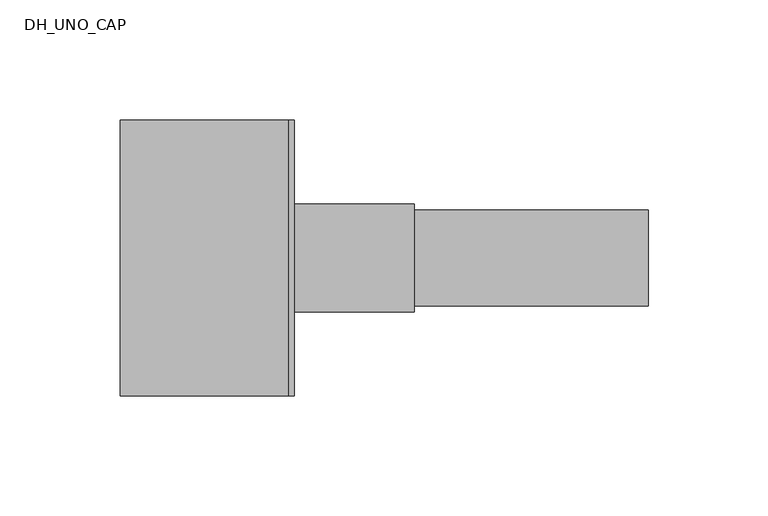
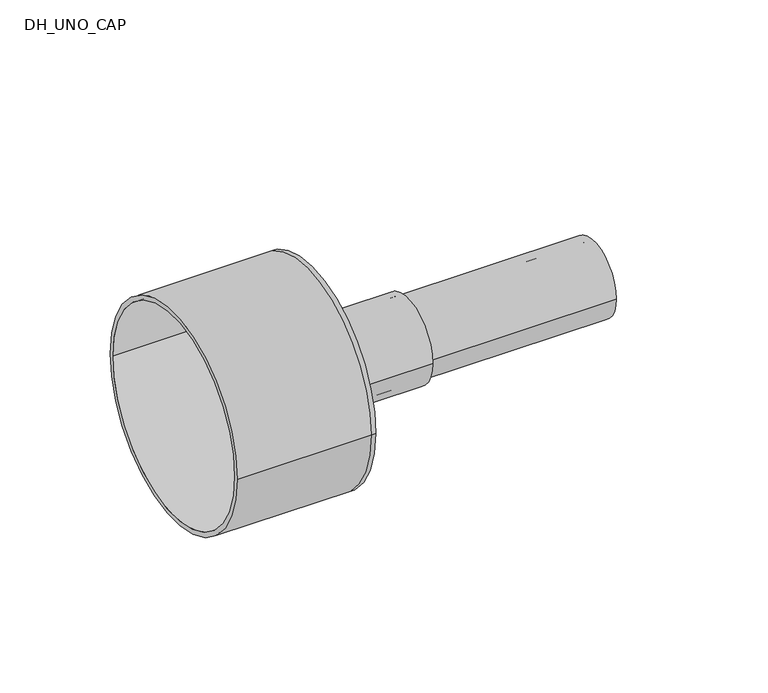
"""IFC4 building model written with IfcOpenShell, lengths in millimetres: pipe fitting geometry, DH_UNO_CAP : INSULPEX UNO + 11 Heating - Rubber Cap."""

from ifc_helpers import new_model, si_unit, point, frame, origin, origin_2d, place, context, project, spatial, polyline, circle_curve, trimmed, segment, composite_curve, outline, extrude, source, transform, mapped, element, save
from ifc_brep_helpers import plane_surface, cylinder_surface, revolved_surface, advanced_brep


def dh_uno_cap_8feabba9(model_context):
    return source(origin(), model_context, "Body", "SolidModel", [
        extrude(outline(composite_curve([segment(trimmed(circle_curve(origin_2d(), 20.0), [point((-20.0, 0.0))], [point((20.0, 0.0))], False, "CARTESIAN"), True, "CONTINUOUS"), segment(trimmed(circle_curve(origin_2d(), 20.0), [point((20.0, 0.0))], [point((-20.0, 0.0))], False, "CARTESIAN"), True, "CONTINUOUS")], self_intersect=False), holes=[composite_curve([segment(trimmed(circle_curve(origin_2d(), 16.3), [point((-16.3, 0.0))], [point((16.3, 0.0))], True, "CARTESIAN"), True, "CONTINUOUS"), segment(trimmed(circle_curve(origin_2d(), 16.3), [point((16.3, 0.0))], [point((-16.3, 0.0))], True, "CARTESIAN"), True, "CONTINUOUS")], self_intersect=False)]), frame((0.0, 0.0, 0.0), z_axis=(1.0, 0.0, 0.0), x_axis=(0.0, 1.0, 0.0)), (0.0, 0.0, 1.0), 150.0),
        advanced_brep(
        [(-70.0, -57.5, 0.0), (-70.0, 57.5, 0.0), (-70.0, -55.0, 0.0), (-70.0, 55.0, 0.0), (0.0, -55.0, 0.0), (0.0, 55.0, 0.0), (0.0, -57.5, 0.0), (0.0, 57.5, 0.0), (0.0, 20.0, 0.0), (0.0, -20.0, 0.0), (2.5, -57.5, 0.0), (2.5, 57.5, 0.0), (2.5, -20.0, 0.0), (2.5, 20.0, 0.0)],
        [
            (0, 1, circle_curve(frame((-70.0, 0.0, 0.0), z_axis=(-1.0, 0.0, 0.0), x_axis=(0.0, 1.0, 0.0)), 57.5)),
            (1, 0, circle_curve(frame((-70.0, 0.0, 0.0), z_axis=(-1.0, 0.0, 0.0), x_axis=(0.0, 1.0, 0.0)), 57.5)),
            (2, 3, circle_curve(frame((-70.0, 0.0, 0.0), z_axis=(1.0, 0.0, 0.0), x_axis=(0.0, 1.0, 0.0)), 55.0)),
            (3, 2, circle_curve(frame((-70.0, 0.0, 0.0), z_axis=(1.0, 0.0, 0.0), x_axis=(0.0, 1.0, 0.0)), 55.0)),
            (2, 4),
            (4, 5, circle_curve(frame((0.0, 0.0, 0.0), z_axis=(1.0, 0.0, 0.0), x_axis=(0.0, 1.0, 0.0)), 55.0)),
            (5, 3),
            (5, 4, circle_curve(frame((0.0, 0.0, 0.0), z_axis=(1.0, 0.0, 0.0), x_axis=(0.0, 1.0, 0.0)), 55.0)),
            (0, 6),
            (6, 7, circle_curve(frame((0.0, 0.0, 0.0), z_axis=(-1.0, 0.0, 0.0), x_axis=(0.0, 1.0, 0.0)), 57.5)),
            (7, 1),
            (7, 6, circle_curve(frame((0.0, 0.0, 0.0), z_axis=(-1.0, 0.0, 0.0), x_axis=(0.0, 1.0, 0.0)), 57.5)),
            (8, 9, circle_curve(frame((0.0, 0.0, 0.0), z_axis=(1.0, 0.0, 0.0), x_axis=(0.0, 1.0, 0.0)), 20.0)),
            (9, 8, circle_curve(frame((0.0, 0.0, 0.0), z_axis=(1.0, 0.0, 0.0), x_axis=(0.0, 1.0, 0.0)), 20.0)),
            (10, 11, circle_curve(frame((2.5, 0.0, 0.0), z_axis=(1.0, 0.0, 0.0), x_axis=(0.0, 1.0, 0.0)), 57.5)),
            (11, 10, circle_curve(frame((2.5, 0.0, 0.0), z_axis=(1.0, 0.0, 0.0), x_axis=(0.0, 1.0, 0.0)), 57.5)),
            (12, 13, circle_curve(frame((2.5, 0.0, 0.0), z_axis=(-1.0, 0.0, 0.0), x_axis=(0.0, 1.0, 0.0)), 20.0)),
            (13, 12, circle_curve(frame((2.5, 0.0, 0.0), z_axis=(-1.0, 0.0, 0.0), x_axis=(0.0, 1.0, 0.0)), 20.0)),
            (11, 7),
            (6, 10),
            (8, 13),
            (12, 9),
        ],
        [
            plane_surface(frame((-70.0, 0.0, 0.0), z_axis=(-1.0, 0.0, 0.0), x_axis=(0.0, 0.0, 1.0))),
            revolved_surface(polyline([(0.0, 55.0, 0.0), (-70.0, 55.0, 0.0)]), (-70.0, 0.0, 0.0), (1.0, 0.0, 0.0)),
            cylinder_surface(frame((-70.0, 0.0, 0.0), z_axis=(-1.0, 0.0, 0.0), x_axis=(0.0, 1.0, 0.0)), 57.5),
            plane_surface(frame((0.0, 0.0, 0.0), z_axis=(-1.0, 0.0, 0.0), x_axis=(0.0, 0.0, 1.0))),
            plane_surface(frame((2.5, 0.0, 0.0), z_axis=(1.0, 0.0, 0.0), x_axis=(0.0, 0.0, 1.0))),
            cylinder_surface(frame((0.0, 0.0, 0.0), z_axis=(-1.0, 0.0, 0.0), x_axis=(0.0, 1.0, 0.0)), 57.5),
            revolved_surface(polyline([(0.0, 20.0, 0.0), (2.5, 20.0, 0.0)]), (0.0, 0.0, 0.0), (-1.0, 0.0, 0.0)),
        ],
        [
            (0, [[1, 2], [3, 4]]),
            (1, [[-3, 5, 6, 7]]),
            (1, [[-4, -7, 8, -5]]),
            (2, [[-1, 9, 10, 11]]),
            (2, [[-2, -11, 12, -9]]),
            (3, [[-6, -8], [13, 14]]),
            (4, [[15, 16], [17, 18]]),
            (5, [[-16, 19, -10, 20]]),
            (5, [[-15, -20, -12, -19]]),
            (6, [[21, -17, 22, -13]]),
            (6, [[-21, -14, -22, -18]]),
        ],
    ),
        extrude(outline(composite_curve([segment(trimmed(circle_curve(origin_2d(), 22.5), [point((-22.5, 0.0))], [point((22.5, 0.0))], False, "CARTESIAN"), True, "CONTINUOUS"), segment(trimmed(circle_curve(origin_2d(), 22.5), [point((22.5, 0.0))], [point((-22.5, 0.0))], False, "CARTESIAN"), True, "CONTINUOUS")], self_intersect=False), holes=[composite_curve([segment(trimmed(circle_curve(origin_2d(), 20.0), [point((-20.0, 0.0))], [point((20.0, 0.0))], True, "CARTESIAN"), True, "CONTINUOUS"), segment(trimmed(circle_curve(origin_2d(), 20.0), [point((20.0, 0.0))], [point((-20.0, 0.0))], True, "CARTESIAN"), True, "CONTINUOUS")], self_intersect=False)]), frame((2.5, 0.0, 0.0), z_axis=(1.0, 0.0, 0.0), x_axis=(0.0, 1.0, 0.0)), (0.0, 0.0, 1.0), 50.0),
    ])


if __name__ == "__main__":
    model = new_model("IFC4")
    model_context = context("Model", 3, world=origin())
    ifc_project = project(units=[si_unit("LENGTHUNIT", "METRE", prefix="MILLI")], contexts=[model_context])
    site = spatial("IfcSite", under=ifc_project)
    building = spatial("IfcBuilding", under=site)
    placement = place(None, origin())
    dh_uno_cap_shape = dh_uno_cap_8feabba9(model_context)
    element("IfcPipeFitting", 1, ObjectType="DH_UNO_CAP : INSULPEX UNO + 11 Heating - Rubber Cap", at=placement, inside=building, context=model_context, shape_type="MappedRepresentation", body=[
        mapped(dh_uno_cap_shape, transform((0.0, 0.0, 0.0), x_axis=(1.0, 0.0, 0.0), y_axis=(0.0, 1.0, 0.0), z_axis=(0.0, 0.0, 1.0))),
    ])
    save(model, "model.ifc")
